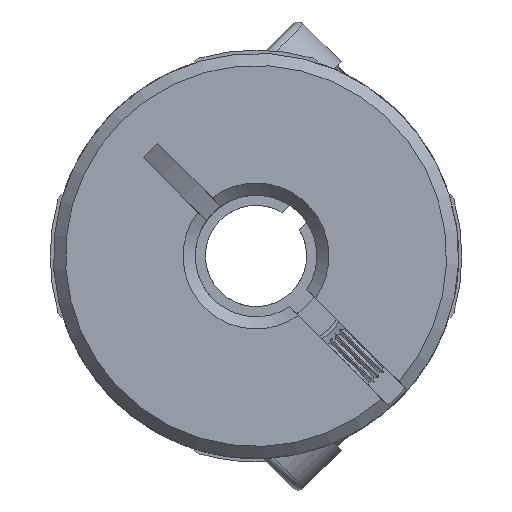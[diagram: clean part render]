
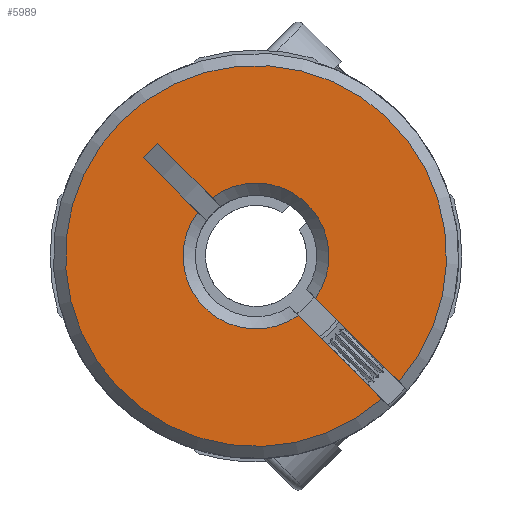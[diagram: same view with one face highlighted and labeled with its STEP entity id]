
A CAD part, front view. The second image highlights one B-rep face of the part: STEP entity #5989.
In plain terms, the highlighted planar face has unit normal (0, -1, 0).
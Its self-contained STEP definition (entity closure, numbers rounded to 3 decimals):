
#130 = EDGE_CURVE ( 'NONE', #10344, #6318, #12784, .T. ) ;
#293 = CARTESIAN_POINT ( 'NONE',  ( 342.528, -12.6, 364.579 ) ) ;
#398 = VECTOR ( 'NONE', #3300, 1000. ) ;
#408 = DIRECTION ( 'NONE',  ( 0., 1., 0. ) ) ;
#454 = VERTEX_POINT ( 'NONE', #7539 ) ;
#1093 = ORIENTED_EDGE ( 'NONE', *, *, #2598, .F. ) ;
#1263 = EDGE_LOOP ( 'NONE', ( #11816, #3615, #1093, #1530, #9964, #1299, #1842, #8184 ) ) ;
#1299 = ORIENTED_EDGE ( 'NONE', *, *, #6455, .T. ) ;
#1324 = DIRECTION ( 'NONE',  ( 0., 1., 0. ) ) ;
#1327 = VERTEX_POINT ( 'NONE', #1941 ) ;
#1355 = DIRECTION ( 'NONE',  ( -0.707, 0., -0.707 ) ) ;
#1530 = ORIENTED_EDGE ( 'NONE', *, *, #7492, .T. ) ;
#1702 = AXIS2_PLACEMENT_3D ( 'NONE', #4031, #6095, #10073 ) ;
#1842 = ORIENTED_EDGE ( 'NONE', *, *, #7322, .F. ) ;
#1941 = CARTESIAN_POINT ( 'NONE',  ( 6.209, -12.6, -7.058 ) ) ;
#2180 = EDGE_CURVE ( 'NONE', #10344, #12199, #4737, .T. ) ;
#2357 = CARTESIAN_POINT ( 'NONE',  ( 1.654, -12.6, -2.503 ) ) ;
#2401 = PLANE ( 'NONE',  #5757 ) ;
#2490 = DIRECTION ( 'NONE',  ( -0.707, 0., 0.707 ) ) ;
#2529 = EDGE_CURVE ( 'NONE', #454, #1327, #10095, .T. ) ;
#2598 = EDGE_CURVE ( 'NONE', #5659, #7747, #9770, .T. ) ;
#3300 = DIRECTION ( 'NONE',  ( 0.707, 0., -0.707 ) ) ;
#3615 = ORIENTED_EDGE ( 'NONE', *, *, #7333, .T. ) ;
#3860 = VERTEX_POINT ( 'NONE', #9566 ) ;
#4031 = CARTESIAN_POINT ( 'NONE',  ( 0., -12.6, 0. ) ) ;
#4403 = VECTOR ( 'NONE', #7682, 1000. ) ;
#4539 = CARTESIAN_POINT ( 'NONE',  ( 4.95, -12.6, -5.657 ) ) ;
#4737 = LINE ( 'NONE', #6509, #5365 ) ;
#4741 = CARTESIAN_POINT ( 'NONE',  ( 7.058, -12.6, -6.209 ) ) ;
#4775 = CARTESIAN_POINT ( 'NONE',  ( -4.842, -12.6, 5.549 ) ) ;
#4831 = CIRCLE ( 'NONE', #11895, 3.6 ) ;
#5365 = VECTOR ( 'NONE', #1355, 1000. ) ;
#5478 = CARTESIAN_POINT ( 'NONE',  ( 2.934, -12.6, -2.086 ) ) ;
#5659 = VERTEX_POINT ( 'NONE', #4741 ) ;
#5757 = AXIS2_PLACEMENT_3D ( 'NONE', #293, #1324, #9497 ) ;
#5793 = CIRCLE ( 'NONE', #11615, 3.6 ) ;
#5989 = ADVANCED_FACE ( 'NONE', ( #6585 ), #2401, .F. ) ;
#6095 = DIRECTION ( 'NONE',  ( 0., -1., 0. ) ) ;
#6318 = VERTEX_POINT ( 'NONE', #10063 ) ;
#6449 = CARTESIAN_POINT ( 'NONE',  ( 0., -12.6, 0. ) ) ;
#6455 = EDGE_CURVE ( 'NONE', #454, #3860, #5793, .T. ) ;
#6509 = CARTESIAN_POINT ( 'NONE',  ( -4.842, -12.6, 5.549 ) ) ;
#6585 = FACE_OUTER_BOUND ( 'NONE', #1263, .T. ) ;
#6884 = CIRCLE ( 'NONE', #1702, 9.4 ) ;
#7322 = EDGE_CURVE ( 'NONE', #12199, #3860, #8301, .T. ) ;
#7333 = EDGE_CURVE ( 'NONE', #6318, #7747, #4831, .T. ) ;
#7339 = CARTESIAN_POINT ( 'NONE',  ( -5.549, -12.6, 4.842 ) ) ;
#7490 = DIRECTION ( 'NONE',  ( 0., 1., 0. ) ) ;
#7492 = EDGE_CURVE ( 'NONE', #5659, #1327, #6884, .T. ) ;
#7539 = CARTESIAN_POINT ( 'NONE',  ( 2.086, -12.6, -2.934 ) ) ;
#7542 = DIRECTION ( 'NONE',  ( 0.707, 0., -0.707 ) ) ;
#7634 = DIRECTION ( 'NONE',  ( 0.707, 0., -0.707 ) ) ;
#7641 = CARTESIAN_POINT ( 'NONE',  ( 2.503, -12.6, -1.654 ) ) ;
#7682 = DIRECTION ( 'NONE',  ( 0.707, 0., -0.707 ) ) ;
#7747 = VERTEX_POINT ( 'NONE', #5478 ) ;
#8184 = ORIENTED_EDGE ( 'NONE', *, *, #2180, .F. ) ;
#8219 = DIRECTION ( 'NONE',  ( 0.707, 0., -0.707 ) ) ;
#8301 = LINE ( 'NONE', #4539, #12096 ) ;
#9497 = DIRECTION ( 'NONE',  ( 0.707, 0., -0.707 ) ) ;
#9566 = CARTESIAN_POINT ( 'NONE',  ( -2.874, -12.6, 2.167 ) ) ;
#9770 = LINE ( 'NONE', #7641, #11679 ) ;
#9964 = ORIENTED_EDGE ( 'NONE', *, *, #2529, .F. ) ;
#10063 = CARTESIAN_POINT ( 'NONE',  ( -2.167, -12.6, 2.874 ) ) ;
#10073 = DIRECTION ( 'NONE',  ( 0.707, 0., -0.707 ) ) ;
#10095 = LINE ( 'NONE', #2357, #398 ) ;
#10344 = VERTEX_POINT ( 'NONE', #4775 ) ;
#10633 = CARTESIAN_POINT ( 'NONE',  ( 0., -12.6, 0. ) ) ;
#11574 = CARTESIAN_POINT ( 'NONE',  ( 5.657, -12.6, -4.95 ) ) ;
#11615 = AXIS2_PLACEMENT_3D ( 'NONE', #6449, #7490, #8219 ) ;
#11679 = VECTOR ( 'NONE', #2490, 1000. ) ;
#11816 = ORIENTED_EDGE ( 'NONE', *, *, #130, .T. ) ;
#11895 = AXIS2_PLACEMENT_3D ( 'NONE', #10633, #408, #7542 ) ;
#12096 = VECTOR ( 'NONE', #7634, 1000. ) ;
#12199 = VERTEX_POINT ( 'NONE', #7339 ) ;
#12784 = LINE ( 'NONE', #11574, #4403 ) ;
